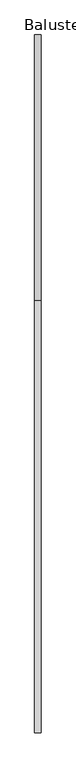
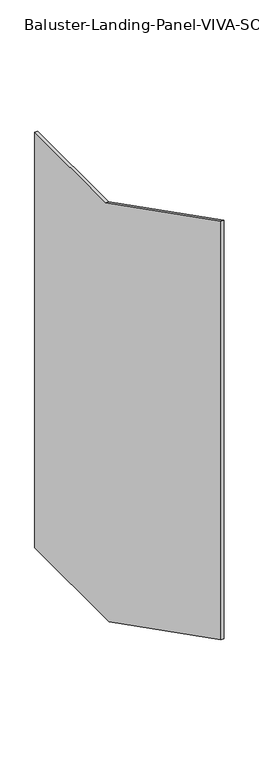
"""IFC4 building model written with IfcOpenShell, lengths in millimetres: railing geometry, Baluster-Landing-Panel-VIVA-SOLO-Upper : Standard_Glass."""

from ifc_helpers import new_model, si_unit, frame, origin, place, context, project, spatial, polyline, outline, extrude, source, transform, mapped, element, save


def baluster_landing_panel_viva_solo_upper_standard_glass_c31046ff(model_context):
    return source(origin(), model_context, "Body", "SweptSolid", [
        extrude(outline(polyline([(640.6252106, 1109.345), (1032.9632336, 1109.345), (1032.9632336, -295.2587299), (619.8929649, -295.2587299), (0.0, 20.32), (0.0, 1435.4782226), (640.6252106, 1109.345)])), frame((31.6077292, 0.0, 0.0), z_axis=(1.0, 0.0, 0.0), x_axis=(0.0, 1.0, 0.0)), (0.0, 0.0, 1.0), 9.525),
    ])


if __name__ == "__main__":
    model = new_model("IFC4")
    model_context = context("Model", 3, world=origin())
    ifc_project = project(units=[si_unit("LENGTHUNIT", "METRE", prefix="MILLI")], contexts=[model_context])
    site = spatial("IfcSite", under=ifc_project)
    building = spatial("IfcBuilding", under=site)
    placement = place(None, origin())
    baluster_landing_panel_viva_solo_upper_standard_glass_shape = baluster_landing_panel_viva_solo_upper_standard_glass_c31046ff(model_context)
    element("IfcRailing", 1, ObjectType="Baluster-Landing-Panel-VIVA-SOLO-Upper : Standard_Glass", at=placement, inside=building, context=model_context, shape_type="MappedRepresentation", body=[
        mapped(baluster_landing_panel_viva_solo_upper_standard_glass_shape, transform((0.0, 0.0, 0.0), x_axis=(1.0, 0.0, 0.0), y_axis=(0.0, 1.0, 0.0), z_axis=(0.0, 0.0, 1.0))),
    ])
    save(model, "model.ifc")
